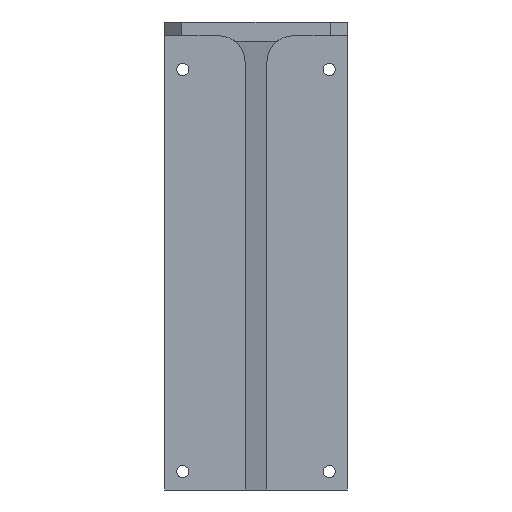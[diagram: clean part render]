
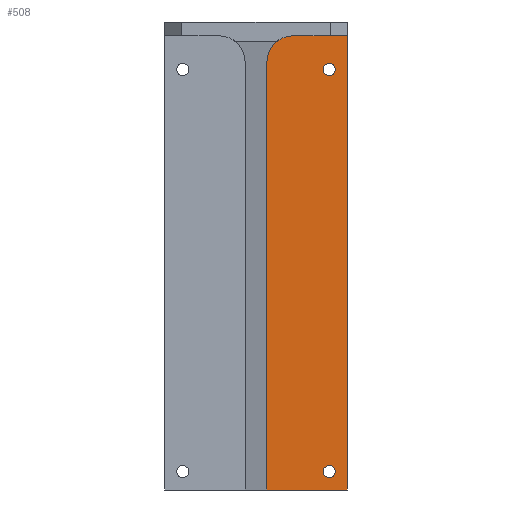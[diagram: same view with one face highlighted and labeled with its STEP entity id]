
A CAD part, left-side view. The second image highlights one B-rep face of the part: STEP entity #508.
In plain terms, the highlighted planar face has unit normal (-1, 0, 0).
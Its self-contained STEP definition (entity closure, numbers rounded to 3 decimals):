
#23 = DIRECTION ( 'NONE',  ( 1., 0., 0. ) ) ;
#47 = EDGE_CURVE ( 'NONE', #1657, #378, #765, .T. ) ;
#53 = EDGE_CURVE ( 'NONE', #835, #274, #745, .T. ) ;
#66 = CARTESIAN_POINT ( 'NONE',  ( 39., 0., -192. ) ) ;
#85 = ORIENTED_EDGE ( 'NONE', *, *, #672, .T. ) ;
#108 = DIRECTION ( 'NONE',  ( 0., 0., -1. ) ) ;
#184 = DIRECTION ( 'NONE',  ( 0., -1., 0. ) ) ;
#190 = EDGE_CURVE ( 'NONE', #1348, #452, #1309, .T. ) ;
#208 = DIRECTION ( 'NONE',  ( 1., 0., 0. ) ) ;
#214 = ORIENTED_EDGE ( 'NONE', *, *, #53, .T. ) ;
#244 = DIRECTION ( 'NONE',  ( 0., 0., -1. ) ) ;
#255 = CARTESIAN_POINT ( 'NONE',  ( 39., 22.5, -16.2 ) ) ;
#256 = ORIENTED_EDGE ( 'NONE', *, *, #1255, .T. ) ;
#258 = CARTESIAN_POINT ( 'NONE',  ( 39., 33., -192. ) ) ;
#274 = VERTEX_POINT ( 'NONE', #1431 ) ;
#276 = DIRECTION ( 'NONE',  ( 0., 0., -1. ) ) ;
#287 = ORIENTED_EDGE ( 'NONE', *, *, #731, .F. ) ;
#293 = AXIS2_PLACEMENT_3D ( 'NONE', #255, #1296, #276 ) ;
#327 = DIRECTION ( 'NONE',  ( 0., 0., -1. ) ) ;
#328 = VERTEX_POINT ( 'NONE', #1324 ) ;
#342 = DIRECTION ( 'NONE',  ( 1., 0., 0. ) ) ;
#355 = CARTESIAN_POINT ( 'NONE',  ( 39., 33., -192. ) ) ;
#378 = VERTEX_POINT ( 'NONE', #1190 ) ;
#452 = VERTEX_POINT ( 'NONE', #1048 ) ;
#473 = CARTESIAN_POINT ( 'NONE',  ( 39., 33., -192. ) ) ;
#486 = DIRECTION ( 'NONE',  ( 1., 0., 0. ) ) ;
#494 = CARTESIAN_POINT ( 'NONE',  ( 39., 7.5, -187. ) ) ;
#508 = ADVANCED_FACE ( 'NONE', ( #1094, #1087, #1169 ), #1053, .F. ) ;
#591 = EDGE_CURVE ( 'NONE', #835, #452, #1513, .T. ) ;
#598 = EDGE_LOOP ( 'NONE', ( #1506, #256 ) ) ;
#672 = EDGE_CURVE ( 'NONE', #1007, #1348, #1475, .T. ) ;
#688 = DIRECTION ( 'NONE',  ( 0., -1., 0. ) ) ;
#731 = EDGE_CURVE ( 'NONE', #1007, #274, #1808, .T. ) ;
#745 = CIRCLE ( 'NONE', #293, 10.5 ) ;
#765 = CIRCLE ( 'NONE', #1409, 2.5 ) ;
#787 = CARTESIAN_POINT ( 'NONE',  ( 39., 33., -192. ) ) ;
#835 = VERTEX_POINT ( 'NONE', #1667 ) ;
#840 = DIRECTION ( 'NONE',  ( 1., 0., 0. ) ) ;
#863 = EDGE_CURVE ( 'NONE', #328, #1617, #1558, .T. ) ;
#869 = EDGE_CURVE ( 'NONE', #1617, #328, #877, .T. ) ;
#877 = CIRCLE ( 'NONE', #1410, 2.5 ) ;
#928 = AXIS2_PLACEMENT_3D ( 'NONE', #1268, #342, #108 ) ;
#950 = CARTESIAN_POINT ( 'NONE',  ( 39., 0., -5.7 ) ) ;
#1007 = VERTEX_POINT ( 'NONE', #355 ) ;
#1030 = EDGE_LOOP ( 'NONE', ( #1533, #1156 ) ) ;
#1048 = CARTESIAN_POINT ( 'NONE',  ( 39., 0., -5.7 ) ) ;
#1053 = PLANE ( 'NONE',  #1215 ) ;
#1078 = DIRECTION ( 'NONE',  ( 0., 0., -1. ) ) ;
#1087 = FACE_BOUND ( 'NONE', #1030, .T. ) ;
#1088 = CARTESIAN_POINT ( 'NONE',  ( 39., 7.5, -19.5 ) ) ;
#1094 = FACE_BOUND ( 'NONE', #598, .T. ) ;
#1097 = CIRCLE ( 'NONE', #928, 2.5 ) ;
#1131 = DIRECTION ( 'NONE',  ( 0., 0., -1. ) ) ;
#1139 = CARTESIAN_POINT ( 'NONE',  ( 39., 7.5, -19.5 ) ) ;
#1156 = ORIENTED_EDGE ( 'NONE', *, *, #863, .T. ) ;
#1163 = DIRECTION ( 'NONE',  ( 0., 0., 1. ) ) ;
#1169 = FACE_OUTER_BOUND ( 'NONE', #1698, .T. ) ;
#1190 = CARTESIAN_POINT ( 'NONE',  ( 39., 7.5, -182. ) ) ;
#1215 = AXIS2_PLACEMENT_3D ( 'NONE', #258, #208, #327 ) ;
#1255 = EDGE_CURVE ( 'NONE', #378, #1657, #1097, .T. ) ;
#1268 = CARTESIAN_POINT ( 'NONE',  ( 39., 7.5, -184.5 ) ) ;
#1289 = VECTOR ( 'NONE', #1652, 1000. ) ;
#1296 = DIRECTION ( 'NONE',  ( -1., 0., 0. ) ) ;
#1309 = LINE ( 'NONE', #1530, #1289 ) ;
#1324 = CARTESIAN_POINT ( 'NONE',  ( 39., 7.5, -17. ) ) ;
#1348 = VERTEX_POINT ( 'NONE', #66 ) ;
#1409 = AXIS2_PLACEMENT_3D ( 'NONE', #1805, #23, #244 ) ;
#1410 = AXIS2_PLACEMENT_3D ( 'NONE', #1139, #840, #1078 ) ;
#1431 = CARTESIAN_POINT ( 'NONE',  ( 39., 33., -16.2 ) ) ;
#1475 = LINE ( 'NONE', #787, #1570 ) ;
#1506 = ORIENTED_EDGE ( 'NONE', *, *, #47, .T. ) ;
#1509 = VECTOR ( 'NONE', #184, 1000. ) ;
#1513 = LINE ( 'NONE', #950, #1509 ) ;
#1530 = CARTESIAN_POINT ( 'NONE',  ( 39., 0., -192. ) ) ;
#1531 = VECTOR ( 'NONE', #1163, 1000. ) ;
#1533 = ORIENTED_EDGE ( 'NONE', *, *, #869, .T. ) ;
#1553 = AXIS2_PLACEMENT_3D ( 'NONE', #1088, #486, #1131 ) ;
#1558 = CIRCLE ( 'NONE', #1553, 2.5 ) ;
#1570 = VECTOR ( 'NONE', #688, 1000. ) ;
#1577 = CARTESIAN_POINT ( 'NONE',  ( 39., 7.5, -22. ) ) ;
#1617 = VERTEX_POINT ( 'NONE', #1577 ) ;
#1652 = DIRECTION ( 'NONE',  ( 0., 0., 1. ) ) ;
#1657 = VERTEX_POINT ( 'NONE', #494 ) ;
#1667 = CARTESIAN_POINT ( 'NONE',  ( 39., 22.5, -5.7 ) ) ;
#1698 = EDGE_LOOP ( 'NONE', ( #1728, #214, #287, #85, #1794 ) ) ;
#1728 = ORIENTED_EDGE ( 'NONE', *, *, #591, .F. ) ;
#1794 = ORIENTED_EDGE ( 'NONE', *, *, #190, .T. ) ;
#1805 = CARTESIAN_POINT ( 'NONE',  ( 39., 7.5, -184.5 ) ) ;
#1808 = LINE ( 'NONE', #473, #1531 ) ;
